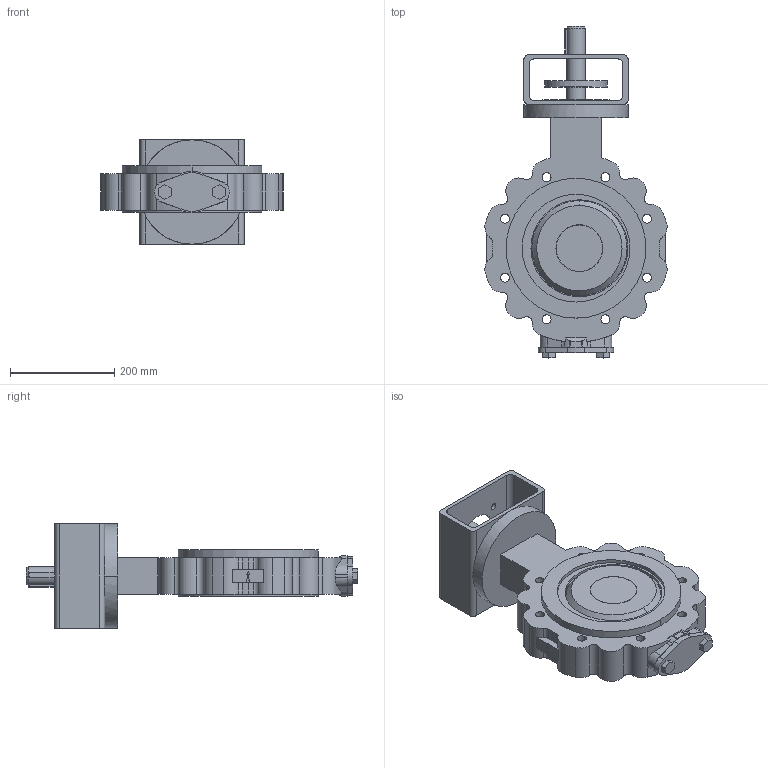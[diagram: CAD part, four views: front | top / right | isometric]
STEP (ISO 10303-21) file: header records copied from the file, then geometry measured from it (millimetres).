
FILE_DESCRIPTION( ( '' ), '1' );
FILE_NAME( 'F:/DE-SHS/TB/OR/04-Sonstiges/daten/files_3d/018_ZETRIX-PN10_freiesWellende/c000006349.stp', '2016-09-01T11:03:43', ( '' ), ( '' ), ' ', ' ', ' ' );
FILE_SCHEMA( ( 'CONFIG_CONTROL_DESIGN' ) );
Length unit declared in the file: millimetre
Products named in the file (1): 1
Bounding box: 349.38 x 636.4 x 200 mm (x, y, z)
Volume: 8587714.5 mm3; surface area: 710851.4 mm2
Topology: 1 solids, 1 shells, 268 faces, 736 edges, 488 vertices
Faces by surface type: cylinder 160, plane 102, cone 4, sphere 2
Entity records: 9518 total; most frequent: CARTESIAN_POINT 2293, DIRECTION 1596, ORIENTED_EDGE 1472, EDGE_CURVE 736, AXIS2_PLACEMENT_3D 623, VERTEX_POINT 488, LINE 350, VECTOR 350
